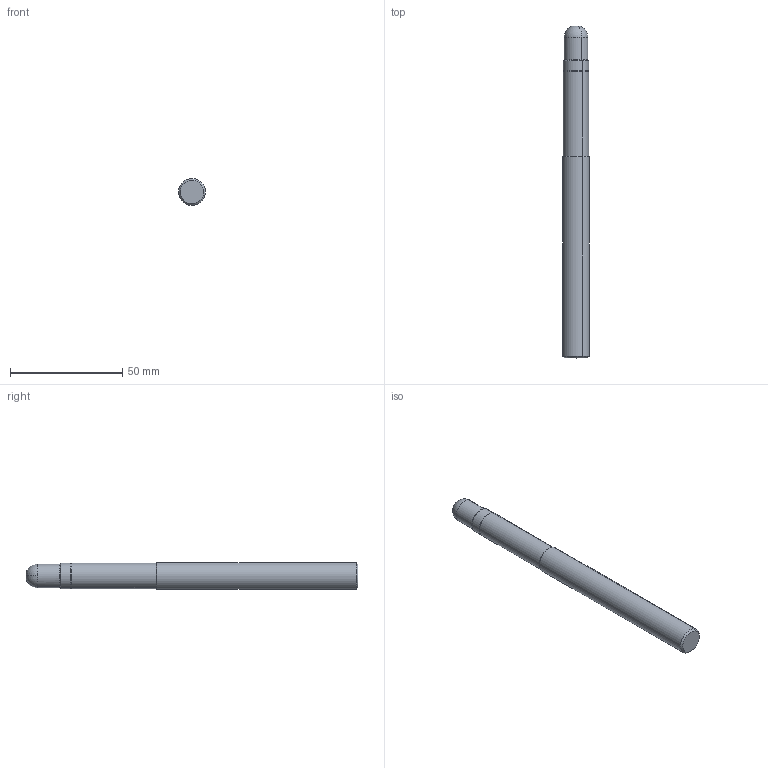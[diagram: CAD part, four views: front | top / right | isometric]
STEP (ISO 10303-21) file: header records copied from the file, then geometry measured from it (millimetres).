
FILE_DESCRIPTION (( 'STEP AP214' ), '1' );
FILE_NAME ('ZBC1202120.STEP', '2021-10-01T01:01:14', ( '' ), ( '' ), 'SwSTEP 2.0', 'SolidWorks 2018', '' );
FILE_SCHEMA (( 'AUTOMOTIVE_DESIGN' ));
Length unit declared in the file: millimetre
Products named in the file (1): ZBC1202120
Bounding box: 12 x 148.06 x 12 mm (x, y, z)
Volume: 15721.7 mm3; surface area: 5949.7 mm2
Topology: 3 solids, 3 shells, 32 faces, 67 edges, 39 vertices
Faces by surface type: cylinder 15, plane 6, sphere 4, bspline 4, cone 3
Entity records: 900 total; most frequent: CARTESIAN_POINT 169, DIRECTION 162, ORIENTED_EDGE 126, AXIS2_PLACEMENT_3D 70, EDGE_CURVE 63, CIRCLE 41, VERTEX_POINT 37, ADVANCED_FACE 32
